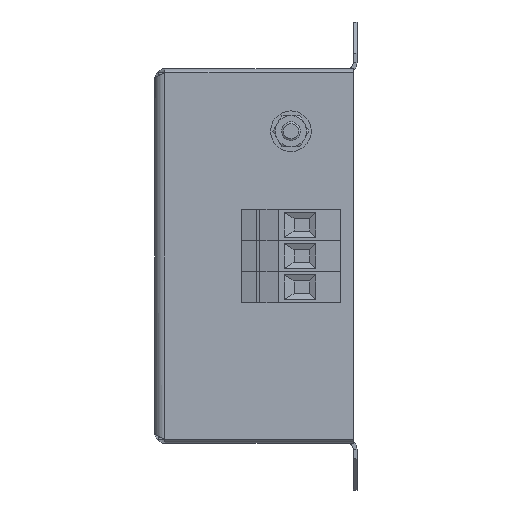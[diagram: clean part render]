
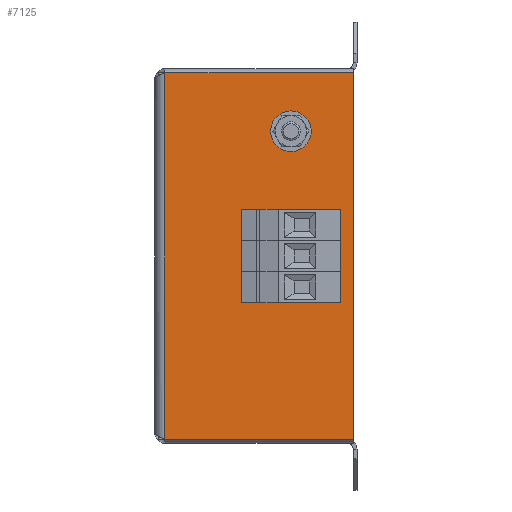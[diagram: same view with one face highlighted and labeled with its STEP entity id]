
A CAD part, left-side view. The second image highlights one B-rep face of the part: STEP entity #7125.
In plain terms, the highlighted planar face has unit normal (-1, 0, 0).
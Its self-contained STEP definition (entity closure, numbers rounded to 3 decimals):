
#156 = DIRECTION ( 'NONE',  ( 0., -1., 0. ) ) ;
#157 = CIRCLE ( 'NONE', #4499, 4.1 ) ;
#407 = ORIENTED_EDGE ( 'NONE', *, *, #3801, .F. ) ;
#615 = CIRCLE ( 'NONE', #5588, 3. ) ;
#731 = CARTESIAN_POINT ( 'NONE',  ( -1.2, -62.4, 117.6 ) ) ;
#761 = ORIENTED_EDGE ( 'NONE', *, *, #9475, .F. ) ;
#834 = VERTEX_POINT ( 'NONE', #3152 ) ;
#940 = ORIENTED_EDGE ( 'NONE', *, *, #3525, .F. ) ;
#987 = CARTESIAN_POINT ( 'NONE',  ( -1.2, -2., 117.529 ) ) ;
#1108 = VECTOR ( 'NONE', #3212, 1000. ) ;
#1220 = VERTEX_POINT ( 'NONE', #4805 ) ;
#1285 = ORIENTED_EDGE ( 'NONE', *, *, #1511, .F. ) ;
#1347 = EDGE_CURVE ( 'NONE', #3347, #7041, #6204, .T. ) ;
#1381 = EDGE_LOOP ( 'NONE', ( #7978, #2029 ) ) ;
#1383 = DIRECTION ( 'NONE',  ( 0., -1., 0. ) ) ;
#1477 = CARTESIAN_POINT ( 'NONE',  ( -1.2, -39.4, 98.8 ) ) ;
#1511 = EDGE_CURVE ( 'NONE', #4069, #834, #3434, .T. ) ;
#1705 = CARTESIAN_POINT ( 'NONE',  ( -1.2, -62.4, 117.529 ) ) ;
#1734 = CARTESIAN_POINT ( 'NONE',  ( -1.2, -38.3, 48.8 ) ) ;
#1904 = DIRECTION ( 'NONE',  ( -1., 0., 0. ) ) ;
#1938 = LINE ( 'NONE', #3825, #8168 ) ;
#1997 = VERTEX_POINT ( 'NONE', #1734 ) ;
#2029 = ORIENTED_EDGE ( 'NONE', *, *, #5942, .F. ) ;
#2228 = DIRECTION ( 'NONE',  ( 0., -1., 0. ) ) ;
#2240 = CARTESIAN_POINT ( 'NONE',  ( -1.2, -62.4, 117.529 ) ) ;
#2521 = EDGE_CURVE ( 'NONE', #1220, #1997, #7109, .T. ) ;
#2544 = AXIS2_PLACEMENT_3D ( 'NONE', #3688, #10443, #5423 ) ;
#2630 = DIRECTION ( 'NONE',  ( -1., 0., 0. ) ) ;
#2655 = CARTESIAN_POINT ( 'NONE',  ( -1.2, -42.4, 48.8 ) ) ;
#2706 = CIRCLE ( 'NONE', #3182, 4.1 ) ;
#2712 = DIRECTION ( 'NONE',  ( 0., -1., 0. ) ) ;
#2759 = FACE_OUTER_BOUND ( 'NONE', #7868, .T. ) ;
#2865 = CARTESIAN_POINT ( 'NONE',  ( -1.2, -42.4, 58.8 ) ) ;
#2883 = EDGE_CURVE ( 'NONE', #4081, #5033, #10779, .T. ) ;
#3052 = CARTESIAN_POINT ( 'NONE',  ( -1.2, -42.4, 68.8 ) ) ;
#3152 = CARTESIAN_POINT ( 'NONE',  ( -1.2, -38.3, 58.8 ) ) ;
#3182 = AXIS2_PLACEMENT_3D ( 'NONE', #8629, #2630, #156 ) ;
#3212 = DIRECTION ( 'NONE',  ( 0., 0., -1. ) ) ;
#3227 = EDGE_LOOP ( 'NONE', ( #940, #407 ) ) ;
#3347 = VERTEX_POINT ( 'NONE', #5808 ) ;
#3434 = CIRCLE ( 'NONE', #10235, 4.1 ) ;
#3525 = EDGE_CURVE ( 'NONE', #8335, #4485, #2706, .T. ) ;
#3606 = CARTESIAN_POINT ( 'NONE',  ( -1.2, -46.5, 58.8 ) ) ;
#3688 = CARTESIAN_POINT ( 'NONE',  ( -1.2, -42.4, 48.8 ) ) ;
#3703 = AXIS2_PLACEMENT_3D ( 'NONE', #6701, #7655, #7889 ) ;
#3765 = LINE ( 'NONE', #4869, #1108 ) ;
#3801 = EDGE_CURVE ( 'NONE', #4485, #8335, #6569, .T. ) ;
#3825 = CARTESIAN_POINT ( 'NONE',  ( -1.2, -62.4, 0.071 ) ) ;
#3893 = VERTEX_POINT ( 'NONE', #5565 ) ;
#3975 = VERTEX_POINT ( 'NONE', #1705 ) ;
#4027 = ORIENTED_EDGE ( 'NONE', *, *, #10654, .F. ) ;
#4030 = EDGE_CURVE ( 'NONE', #7041, #3347, #615, .T. ) ;
#4049 = CARTESIAN_POINT ( 'NONE',  ( -1.2, -38.3, 68.8 ) ) ;
#4069 = VERTEX_POINT ( 'NONE', #3606 ) ;
#4081 = VERTEX_POINT ( 'NONE', #4490 ) ;
#4121 = DIRECTION ( 'NONE',  ( 0., -1., 0. ) ) ;
#4365 = FACE_BOUND ( 'NONE', #1381, .T. ) ;
#4485 = VERTEX_POINT ( 'NONE', #4049 ) ;
#4490 = CARTESIAN_POINT ( 'NONE',  ( -1.2, -2., 0.071 ) ) ;
#4499 = AXIS2_PLACEMENT_3D ( 'NONE', #2865, #8785, #2228 ) ;
#4742 = CARTESIAN_POINT ( 'NONE',  ( -1.2, -2., 117.6 ) ) ;
#4805 = CARTESIAN_POINT ( 'NONE',  ( -1.2, -46.5, 48.8 ) ) ;
#4827 = ORIENTED_EDGE ( 'NONE', *, *, #2883, .F. ) ;
#4869 = CARTESIAN_POINT ( 'NONE',  ( -1.2, -62.4, 117.6 ) ) ;
#4915 = CIRCLE ( 'NONE', #2544, 4.1 ) ;
#4975 = AXIS2_PLACEMENT_3D ( 'NONE', #731, #5887, #10048 ) ;
#4982 = PLANE ( 'NONE',  #4975 ) ;
#5016 = FACE_BOUND ( 'NONE', #10282, .T. ) ;
#5033 = VERTEX_POINT ( 'NONE', #987 ) ;
#5042 = DIRECTION ( 'NONE',  ( 0., -1., 0. ) ) ;
#5130 = CARTESIAN_POINT ( 'NONE',  ( -1.2, -42.4, 58.8 ) ) ;
#5423 = DIRECTION ( 'NONE',  ( 0., -1., 0. ) ) ;
#5565 = CARTESIAN_POINT ( 'NONE',  ( -1.2, -62.4, 0.071 ) ) ;
#5588 = AXIS2_PLACEMENT_3D ( 'NONE', #9100, #7676, #6573 ) ;
#5643 = DIRECTION ( 'NONE',  ( -1., 0., 0. ) ) ;
#5769 = ORIENTED_EDGE ( 'NONE', *, *, #4030, .F. ) ;
#5785 = DIRECTION ( 'NONE',  ( 0., 0., 1. ) ) ;
#5808 = CARTESIAN_POINT ( 'NONE',  ( -1.2, -45.4, 98.8 ) ) ;
#5887 = DIRECTION ( 'NONE',  ( 1., 0., 0. ) ) ;
#5942 = EDGE_CURVE ( 'NONE', #1997, #1220, #4915, .T. ) ;
#6006 = CARTESIAN_POINT ( 'NONE',  ( -1.2, -46.5, 68.8 ) ) ;
#6204 = CIRCLE ( 'NONE', #3703, 3. ) ;
#6569 = CIRCLE ( 'NONE', #7087, 4.1 ) ;
#6573 = DIRECTION ( 'NONE',  ( 0., -1., 0. ) ) ;
#6701 = CARTESIAN_POINT ( 'NONE',  ( -1.2, -42.4, 98.8 ) ) ;
#6884 = FACE_BOUND ( 'NONE', #10637, .T. ) ;
#7026 = EDGE_CURVE ( 'NONE', #5033, #3975, #9502, .T. ) ;
#7041 = VERTEX_POINT ( 'NONE', #1477 ) ;
#7087 = AXIS2_PLACEMENT_3D ( 'NONE', #3052, #5643, #1383 ) ;
#7109 = CIRCLE ( 'NONE', #10292, 4.1 ) ;
#7125 = ADVANCED_FACE ( 'NONE', ( #4365, #9117, #6884, #5016, #2759 ), #4982, .F. ) ;
#7315 = ORIENTED_EDGE ( 'NONE', *, *, #1347, .F. ) ;
#7410 = DIRECTION ( 'NONE',  ( 0., -1., 0. ) ) ;
#7655 = DIRECTION ( 'NONE',  ( -1., 0., 0. ) ) ;
#7676 = DIRECTION ( 'NONE',  ( -1., 0., 0. ) ) ;
#7801 = VECTOR ( 'NONE', #4121, 1000. ) ;
#7868 = EDGE_LOOP ( 'NONE', ( #4827, #10746, #761, #10507 ) ) ;
#7889 = DIRECTION ( 'NONE',  ( 0., -1., 0. ) ) ;
#7978 = ORIENTED_EDGE ( 'NONE', *, *, #2521, .F. ) ;
#8168 = VECTOR ( 'NONE', #7410, 1000. ) ;
#8200 = EDGE_CURVE ( 'NONE', #4081, #3893, #1938, .T. ) ;
#8335 = VERTEX_POINT ( 'NONE', #6006 ) ;
#8475 = DIRECTION ( 'NONE',  ( -1., 0., 0. ) ) ;
#8629 = CARTESIAN_POINT ( 'NONE',  ( -1.2, -42.4, 68.8 ) ) ;
#8785 = DIRECTION ( 'NONE',  ( -1., 0., 0. ) ) ;
#9100 = CARTESIAN_POINT ( 'NONE',  ( -1.2, -42.4, 98.8 ) ) ;
#9117 = FACE_BOUND ( 'NONE', #3227, .T. ) ;
#9475 = EDGE_CURVE ( 'NONE', #3975, #3893, #3765, .T. ) ;
#9502 = LINE ( 'NONE', #2240, #7801 ) ;
#10048 = DIRECTION ( 'NONE',  ( 0., 1., 0. ) ) ;
#10099 = VECTOR ( 'NONE', #5785, 1000. ) ;
#10235 = AXIS2_PLACEMENT_3D ( 'NONE', #5130, #1904, #2712 ) ;
#10282 = EDGE_LOOP ( 'NONE', ( #7315, #5769 ) ) ;
#10292 = AXIS2_PLACEMENT_3D ( 'NONE', #2655, #8475, #5042 ) ;
#10443 = DIRECTION ( 'NONE',  ( -1., 0., 0. ) ) ;
#10507 = ORIENTED_EDGE ( 'NONE', *, *, #7026, .F. ) ;
#10637 = EDGE_LOOP ( 'NONE', ( #1285, #4027 ) ) ;
#10654 = EDGE_CURVE ( 'NONE', #834, #4069, #157, .T. ) ;
#10746 = ORIENTED_EDGE ( 'NONE', *, *, #8200, .T. ) ;
#10779 = LINE ( 'NONE', #4742, #10099 ) ;
